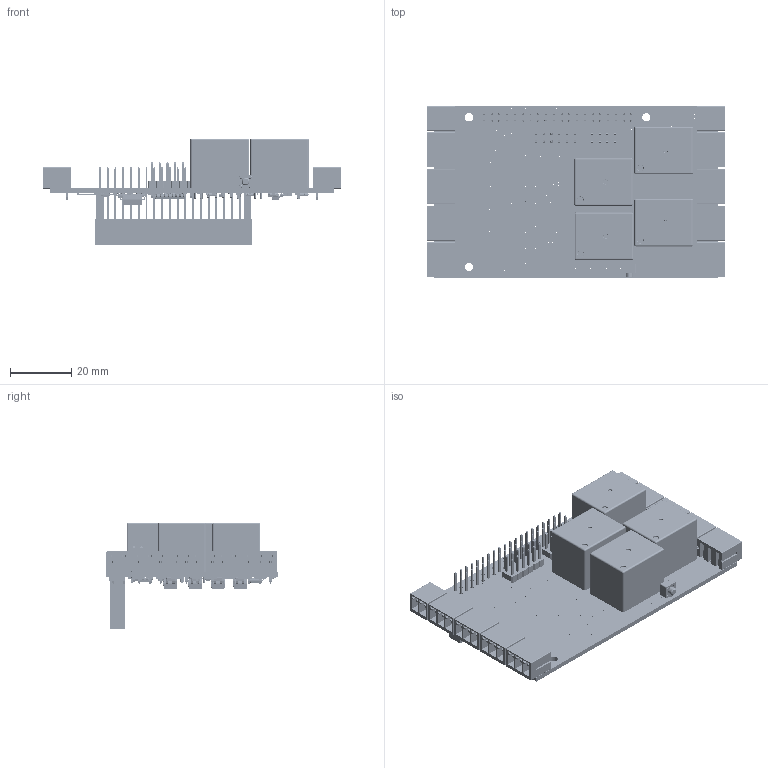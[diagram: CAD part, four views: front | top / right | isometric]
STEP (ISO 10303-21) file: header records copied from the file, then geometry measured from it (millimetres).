
FILE_DESCRIPTION(('Designed by EasyEDA Pro'),'2;1');
FILE_NAME('Open CASCADE Shape Model','2022-09-24T10:06:41',('Author'),( 'Open CASCADE'),'Open CASCADE STEP processor 7.6','Open CASCADE 7.6' ,'Unknown');
FILE_SCHEMA(('AUTOMOTIVE_DESIGN { 1 0 10303 214 1 1 1 1 }'));
Length unit declared in the file: millimetre
Products named in the file (188): PCBModel; COMPOUND; R31; R2512; =>[0:1:1:5]; R32; R34; R35; R37; R38; R28; R29; J2; HDR-TH_8P-P2.54-V-M-R2-C4-S2.54; SOLID; C3; C0402; =>[0:1:1:19]; C1; C4; C5; C2; R33; R0402; =>[0:1:1:27]; R36; R39; R13; R17; R18; R12; R15; R16; R14; R6; R9; R10; R11; R8; R2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
Assembly tree (259 placements, depth 4):
  PCBModel
    COMPOUND
    R31
      R2512
        =>[0:1:1:5]
    R32
      R2512
        =>[0:1:1:5]
    R34
      R2512
        =>[0:1:1:5]
    R35
      R2512
        =>[0:1:1:5]
    R37
      R2512
        =>[0:1:1:5]
    R38
      R2512
        =>[0:1:1:5]
    R28
      R2512
        =>[0:1:1:5]
    R29
      R2512
        =>[0:1:1:5]
    J2
      HDR-TH_8P-P2.54-V-M-R2-C4-S2.54
        SOLID
    C3
      C0402
        =>[0:1:1:19]
    C1
      C0402
        =>[0:1:1:19]
    C4
      C0402
        =>[0:1:1:19]
    C5
      C0402
        =>[0:1:1:19]
    C2
      C0402
        =>[0:1:1:19]
    R33
      R0402
        =>[0:1:1:27]
    R36
      R0402
        =>[0:1:1:27]
    R39
      R0402
        =>[0:1:1:27]
    R13
      R0402
        =>[0:1:1:27]
    R17
      R0402
        =>[0:1:1:27]
    R18
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Bounding box: 97.64 x 56.11 x 34.97 mm (x, y, z)
Volume: 34794.8 mm3; surface area: 37388.1 mm2
Topology: 574 solids, 574 shells, 38909 faces, 101078 edges, 64876 vertices
Faces by surface type: plane 22184, bspline 11032, cylinder 4227, sphere 834, torus 608, cone 18, revolution 6
Full cylindrical faces by diameter (mm): 0.305 x99, 1.1 x20, 1.143 x40, 1.2 x3, 1.397 x24, 1.524 x20, 1.6 x4, 2.743 x3
Entity records: 502535 total; most frequent: CARTESIAN_POINT 149728, ORIENTED_EDGE 67440, DIRECTION 52414, EDGE_CURVE 33720, LINE 22986, VECTOR 22986, VERTEX_POINT 21349, FACE_BOUND 14721
